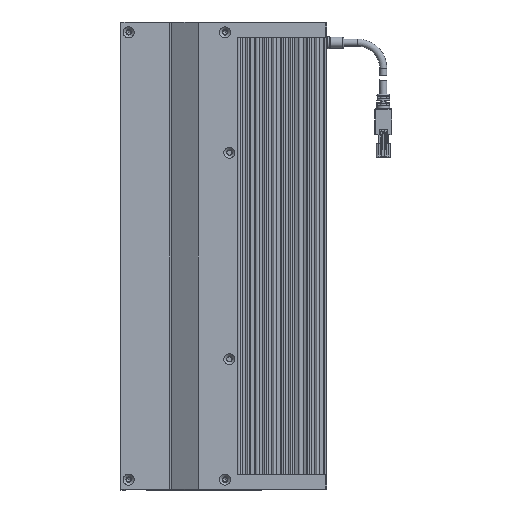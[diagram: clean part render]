
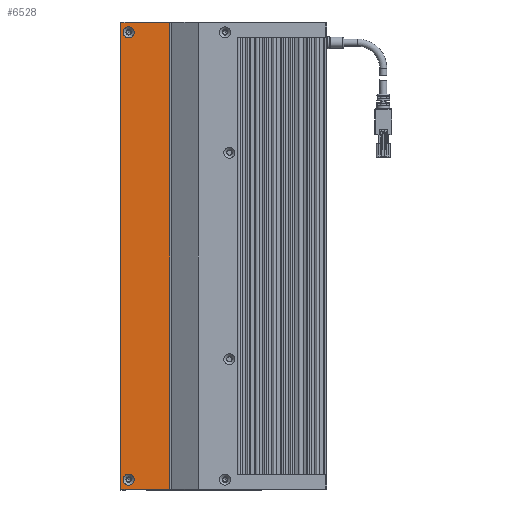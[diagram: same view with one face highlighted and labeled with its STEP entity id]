
A CAD part, left-side view. The second image highlights one B-rep face of the part: STEP entity #6528.
In plain terms, the highlighted planar face has unit normal (-1, 0, 0).
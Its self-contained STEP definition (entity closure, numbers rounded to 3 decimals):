
#2015 = CARTESIAN_POINT ( 'NONE',  ( -15.462, -6.987, 120. ) ) ;
#2335 = DIRECTION ( 'NONE',  ( 0., -1., 0. ) ) ;
#2554 = CARTESIAN_POINT ( 'NONE',  ( -15.462, -7.561, 391. ) ) ;
#3475 = DIRECTION ( 'NONE',  ( 0., 0., -1. ) ) ;
#3905 = CARTESIAN_POINT ( 'NONE',  ( -15.462, 16.939, 385.5 ) ) ;
#4561 = EDGE_CURVE ( 'NONE', #24864, #16010, #31727, .T. ) ;
#4583 = CARTESIAN_POINT ( 'NONE',  ( -15.462, 21.439, 391. ) ) ;
#5298 = DIRECTION ( 'NONE',  ( 0., 0., 1. ) ) ;
#5309 = FACE_OUTER_BOUND ( 'NONE', #29471, .T. ) ;
#6280 = VERTEX_POINT ( 'NONE', #15701 ) ;
#6528 = ADVANCED_FACE ( 'NONE', ( #32859, #12192, #5309 ), #19089, .F. ) ;
#6623 = VECTOR ( 'NONE', #3475, 1000. ) ;
#6847 = ORIENTED_EDGE ( 'NONE', *, *, #12244, .F. ) ;
#7817 = ORIENTED_EDGE ( 'NONE', *, *, #4561, .F. ) ;
#9392 = VERTEX_POINT ( 'NONE', #28154 ) ;
#9886 = CIRCLE ( 'NONE', #14728, 3.15 ) ;
#10396 = ORIENTED_EDGE ( 'NONE', *, *, #28946, .F. ) ;
#10924 = LINE ( 'NONE', #23574, #11333 ) ;
#11294 = CARTESIAN_POINT ( 'NONE',  ( -15.462, -6.987, 389.5 ) ) ;
#11333 = VECTOR ( 'NONE', #5298, 1000. ) ;
#12192 = FACE_BOUND ( 'NONE', #12339, .T. ) ;
#12244 = EDGE_CURVE ( 'NONE', #9392, #9392, #9886, .T. ) ;
#12339 = EDGE_LOOP ( 'NONE', ( #22783 ) ) ;
#12866 = EDGE_CURVE ( 'NONE', #21801, #24864, #22880, .T. ) ;
#13499 = CARTESIAN_POINT ( 'NONE',  ( -15.462, -7.561, 120. ) ) ;
#13506 = LINE ( 'NONE', #13499, #30111 ) ;
#14026 = CIRCLE ( 'NONE', #15059, 3.15 ) ;
#14728 = AXIS2_PLACEMENT_3D ( 'NONE', #24743, #22231, #16709 ) ;
#15048 = AXIS2_PLACEMENT_3D ( 'NONE', #16605, #19195, #24749 ) ;
#15059 = AXIS2_PLACEMENT_3D ( 'NONE', #3905, #32214, #22053 ) ;
#15701 = CARTESIAN_POINT ( 'NONE',  ( -15.462, 21.439, 120. ) ) ;
#16010 = VERTEX_POINT ( 'NONE', #2015 ) ;
#16605 = CARTESIAN_POINT ( 'NONE',  ( -15.462, -7.561, 389.5 ) ) ;
#16709 = DIRECTION ( 'NONE',  ( 0., 0., 1. ) ) ;
#18472 = ORIENTED_EDGE ( 'NONE', *, *, #12866, .F. ) ;
#19089 = PLANE ( 'NONE',  #15048 ) ;
#19195 = DIRECTION ( 'NONE',  ( 1., 0., 0. ) ) ;
#20530 = CARTESIAN_POINT ( 'NONE',  ( -15.462, 16.939, 388.65 ) ) ;
#21652 = VECTOR ( 'NONE', #2335, 1000. ) ;
#21801 = VERTEX_POINT ( 'NONE', #4583 ) ;
#21945 = CARTESIAN_POINT ( 'NONE',  ( -15.462, -6.987, 391. ) ) ;
#22053 = DIRECTION ( 'NONE',  ( 0., 0., 1. ) ) ;
#22231 = DIRECTION ( 'NONE',  ( -1., 0., 0. ) ) ;
#22783 = ORIENTED_EDGE ( 'NONE', *, *, #24928, .F. ) ;
#22880 = LINE ( 'NONE', #2554, #21652 ) ;
#22934 = EDGE_LOOP ( 'NONE', ( #6847 ) ) ;
#23574 = CARTESIAN_POINT ( 'NONE',  ( -15.462, 21.439, 389.5 ) ) ;
#24743 = CARTESIAN_POINT ( 'NONE',  ( -15.462, 16.939, 125.5 ) ) ;
#24749 = DIRECTION ( 'NONE',  ( 0., 0., -1. ) ) ;
#24864 = VERTEX_POINT ( 'NONE', #21945 ) ;
#24928 = EDGE_CURVE ( 'NONE', #32439, #32439, #14026, .T. ) ;
#28098 = ORIENTED_EDGE ( 'NONE', *, *, #33040, .F. ) ;
#28154 = CARTESIAN_POINT ( 'NONE',  ( -15.462, 16.939, 128.65 ) ) ;
#28946 = EDGE_CURVE ( 'NONE', #6280, #21801, #10924, .T. ) ;
#29139 = DIRECTION ( 'NONE',  ( 0., 1., 0. ) ) ;
#29471 = EDGE_LOOP ( 'NONE', ( #10396, #28098, #7817, #18472 ) ) ;
#30111 = VECTOR ( 'NONE', #29139, 1000. ) ;
#31727 = LINE ( 'NONE', #11294, #6623 ) ;
#32214 = DIRECTION ( 'NONE',  ( -1., 0., 0. ) ) ;
#32439 = VERTEX_POINT ( 'NONE', #20530 ) ;
#32859 = FACE_BOUND ( 'NONE', #22934, .T. ) ;
#33040 = EDGE_CURVE ( 'NONE', #16010, #6280, #13506, .T. ) ;
